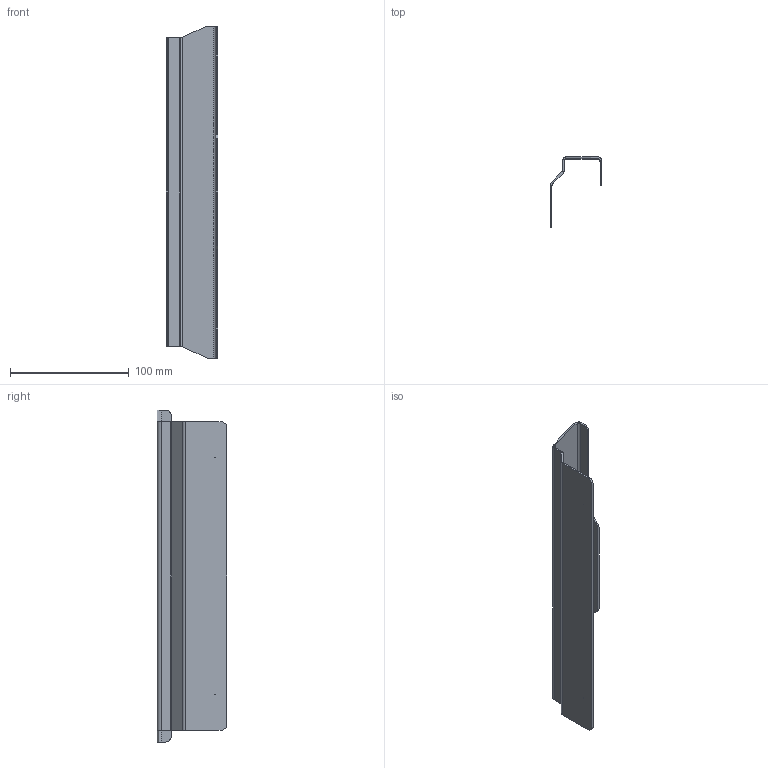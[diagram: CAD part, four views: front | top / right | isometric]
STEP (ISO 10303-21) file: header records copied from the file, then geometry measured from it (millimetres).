
FILE_DESCRIPTION (( 'STEP AP203' ), '1' );
FILE_NAME ('ORW-62.24.80.002 Ñêîáà.STEP', '2024-11-22T12:48:07', ( 'Àíäðåé' ), ( '' ), 'SwSTEP 2.0', 'SolidWorks 2023', '' );
FILE_SCHEMA (( 'CONFIG_CONTROL_DESIGN' ));
Length unit declared in the file: millimetre
Products named in the file (1): ORW-62.24.80.002 Скоба
Bounding box: 43.5 x 58.95 x 280 mm (x, y, z)
Volume: 42663.3 mm3; surface area: 58015.9 mm2
Topology: 1 solids, 1 shells, 44 faces, 120 edges, 78 vertices
Faces by surface type: plane 26, cylinder 18
Full cylindrical faces by diameter (mm): 0.5 x2
Entity records: 1449 total; most frequent: CARTESIAN_POINT 249, DIRECTION 238, ORIENTED_EDGE 232, EDGE_CURVE 116, AXIS2_PLACEMENT_3D 81, VECTOR 76, VERTEX_POINT 76, LINE 76
